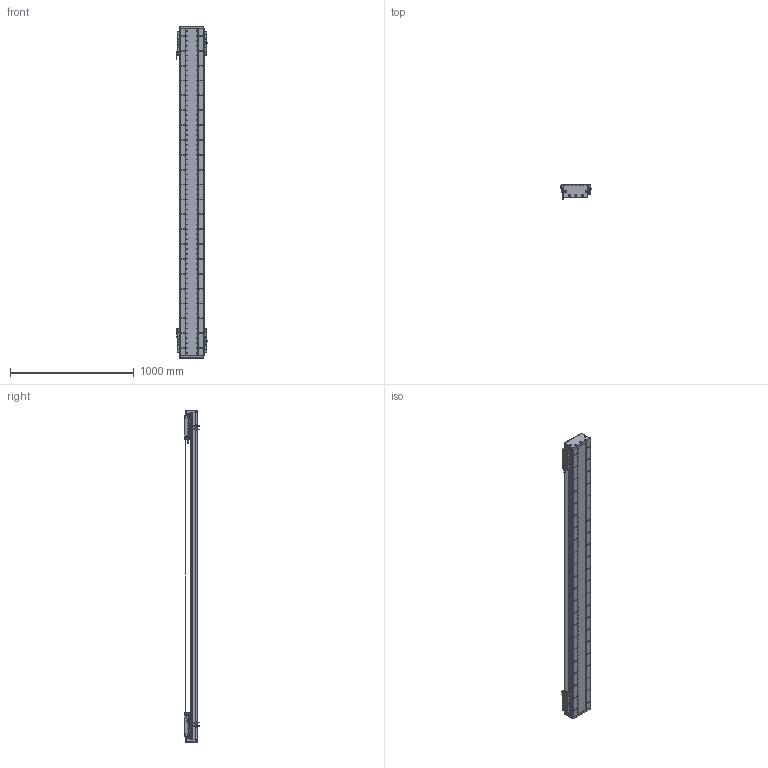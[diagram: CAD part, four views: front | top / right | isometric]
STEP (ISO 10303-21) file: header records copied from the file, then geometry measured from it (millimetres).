
FILE_DESCRIPTION (( 'STEP AP203' ), '1' );
FILE_NAME ('DA-C195-2-C2-T2180-C010-0.2 眻盄萇儂.STEP', '2025-08-14T02:09:42', ( '' ), ( '' ), 'SwSTEP 2.0', 'SolidWorks 2019', '' );
FILE_SCHEMA (( 'CONFIG_CONTROL_DESIGN' ));
Length unit declared in the file: millimetre
Products named in the file (19): DKW-KGZ-ZJ-00 中间光电开关支架-1; DA95-HXJ-00 遣喳砎蝶-1; DA-C195-GD-DB-H-00 傷啣-1; DA195詩湍菜輸-1; CU195-C2賑輸-俋楷-1; PM-Y65嫖萇羲壽郪璃-1; DA165-GYP-00 光电感应片(默认)-1; LMT黍杅芛-1; DKW-GYP-ZJ-00 笢潔嫖萇覜茼え-1; DA195詩湍郪璃-1; MS200 棠掑喜S315-T1740-1; IU-CU195-L-00 菁釱(L2640); DA-C195-2-C2-T2180-C010-0.2 眻盄萇儂; DKW168-HXJ-ZJ-00 笢潔滅袉砎蝶-1; 葩璃 DA95-GT-T-00-1; PM-T45ㄗ侂狟ㄘ-1; DA195詩湍嶺輸-1; DA195詩湍裔啣-1; IU-CU195-L 菁釱絳寢-1
Assembly tree (37 placements, depth 3):
  DA-C195-2-C2-T2180-C010-0.2 眻盄萇儂
    DA195詩湍郪璃-1
      DA195詩湍菜輸-1  x2
      DA195詩湍裔啣-1
      DA195詩湍嶺輸-1  x2
      DA95-HXJ-00 遣喳砎蝶-1  x8
      DA-C195-GD-DB-H-00 傷啣-1  x2
    IU-CU195-L 菁釱絳寢-1
      IU-CU195-L-00 菁釱(L2640)
      葩璃 DA95-GT-T-00-1  x4
    LMT黍杅芛-1  x2
    MS200 棠掑喜S315-T1740-1
    PM-T45ㄗ侂狟ㄘ-1  x4
    DA165-GYP-00 光电感应片(默认)-1  x2
    PM-Y65嫖萇羲壽郪璃-1
    DKW168-HXJ-ZJ-00 笢潔滅袉砎蝶-1
    DKW-GYP-ZJ-00 笢潔嫖萇覜茼え-1
    DKW-KGZ-ZJ-00 中间光电开关支架-1
    CU195-C2賑輸-俋楷-1  x2
Bounding box: 258.2 x 115.45 x 2680 mm (x, y, z)
Volume: 16564188.1 mm3; surface area: 4812354.5 mm2
Topology: 114 solids, 242 shells, 7025 faces, 18647 edges, 11601 vertices
Faces by surface type: cylinder 3316, plane 2625, cone 916, torus 88, sphere 72, bspline 8
Entity records: 151811 total; most frequent: CARTESIAN_POINT 40735, ORIENTED_EDGE 23126, DIRECTION 22170, EDGE_CURVE 11563, AXIS2_PLACEMENT_3D 8169, VERTEX_POINT 7488, LINE 5832, VECTOR 5832
